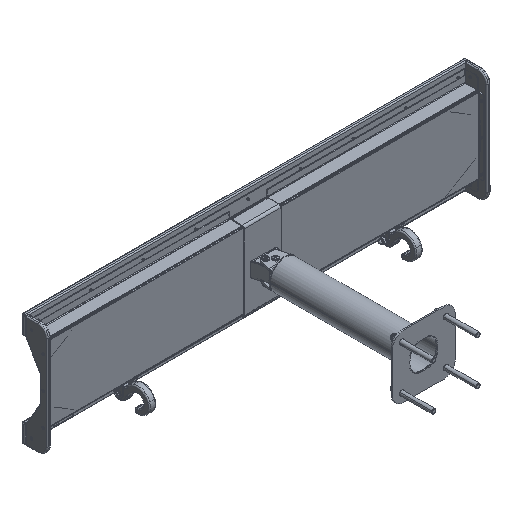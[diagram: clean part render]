
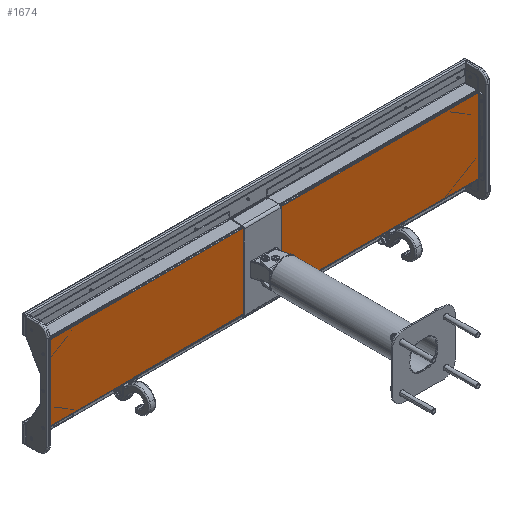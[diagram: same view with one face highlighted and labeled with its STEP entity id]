
A CAD part, isometric view. The second image highlights one B-rep face of the part: STEP entity #1674.
In plain terms, the highlighted planar face has unit normal (0, -1, 0).
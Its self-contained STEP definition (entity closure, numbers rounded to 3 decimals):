
#767 = CARTESIAN_POINT ( 'NONE',  ( -589.5, 440.909, -101.5 ) ) ;
#822 = ORIENTED_EDGE ( 'NONE', *, *, #13002, .T. ) ;
#1674 = ADVANCED_FACE ( 'NONE', ( #24958 ), #13419, .T. ) ;
#3047 = DIRECTION ( 'NONE',  ( 1., 0., 0. ) ) ;
#3308 = CARTESIAN_POINT ( 'NONE',  ( 589.5, 440.909, 101.5 ) ) ;
#4353 = EDGE_CURVE ( 'NONE', #18535, #18343, #15090, .T. ) ;
#4864 = AXIS2_PLACEMENT_3D ( 'NONE', #45177, #27418, #38497 ) ;
#5778 = VECTOR ( 'NONE', #18438, 1000. ) ;
#6080 = CARTESIAN_POINT ( 'NONE',  ( 589.5, 440.909, -101.5 ) ) ;
#9372 = EDGE_CURVE ( 'NONE', #37859, #18343, #43909, .T. ) ;
#9919 = CARTESIAN_POINT ( 'NONE',  ( -592.5, 440.909, -101.5 ) ) ;
#11035 = ORIENTED_EDGE ( 'NONE', *, *, #31076, .F. ) ;
#13002 = EDGE_CURVE ( 'NONE', #18535, #33602, #20745, .T. ) ;
#13099 = ORIENTED_EDGE ( 'NONE', *, *, #4353, .F. ) ;
#13111 = CARTESIAN_POINT ( 'NONE',  ( -589.5, 440.909, 101.5 ) ) ;
#13419 = PLANE ( 'NONE',  #4864 ) ;
#13561 = VECTOR ( 'NONE', #27858, 1000. ) ;
#15090 = LINE ( 'NONE', #767, #5778 ) ;
#18343 = VERTEX_POINT ( 'NONE', #13111 ) ;
#18438 = DIRECTION ( 'NONE',  ( 0., 0., 1. ) ) ;
#18535 = VERTEX_POINT ( 'NONE', #32313 ) ;
#20495 = ORIENTED_EDGE ( 'NONE', *, *, #9372, .T. ) ;
#20745 = LINE ( 'NONE', #9919, #26715 ) ;
#23921 = EDGE_LOOP ( 'NONE', ( #822, #11035, #20495, #13099 ) ) ;
#24958 = FACE_OUTER_BOUND ( 'NONE', #23921, .T. ) ;
#26715 = VECTOR ( 'NONE', #3047, 1000. ) ;
#27418 = DIRECTION ( 'NONE',  ( 0., -1., 0. ) ) ;
#27858 = DIRECTION ( 'NONE',  ( 0., 0., -1. ) ) ;
#31076 = EDGE_CURVE ( 'NONE', #37859, #33602, #39398, .T. ) ;
#31891 = VECTOR ( 'NONE', #33931, 1000. ) ;
#32313 = CARTESIAN_POINT ( 'NONE',  ( -589.5, 440.909, -101.5 ) ) ;
#33602 = VERTEX_POINT ( 'NONE', #6080 ) ;
#33931 = DIRECTION ( 'NONE',  ( -1., 0., 0. ) ) ;
#36221 = CARTESIAN_POINT ( 'NONE',  ( 589.5, 440.909, 101.5 ) ) ;
#37175 = CARTESIAN_POINT ( 'NONE',  ( 592.5, 440.909, 101.5 ) ) ;
#37859 = VERTEX_POINT ( 'NONE', #36221 ) ;
#38497 = DIRECTION ( 'NONE',  ( 0., 0., 1. ) ) ;
#39398 = LINE ( 'NONE', #3308, #13561 ) ;
#43909 = LINE ( 'NONE', #37175, #31891 ) ;
#45177 = CARTESIAN_POINT ( 'NONE',  ( 0., 440.909, 0. ) ) ;
